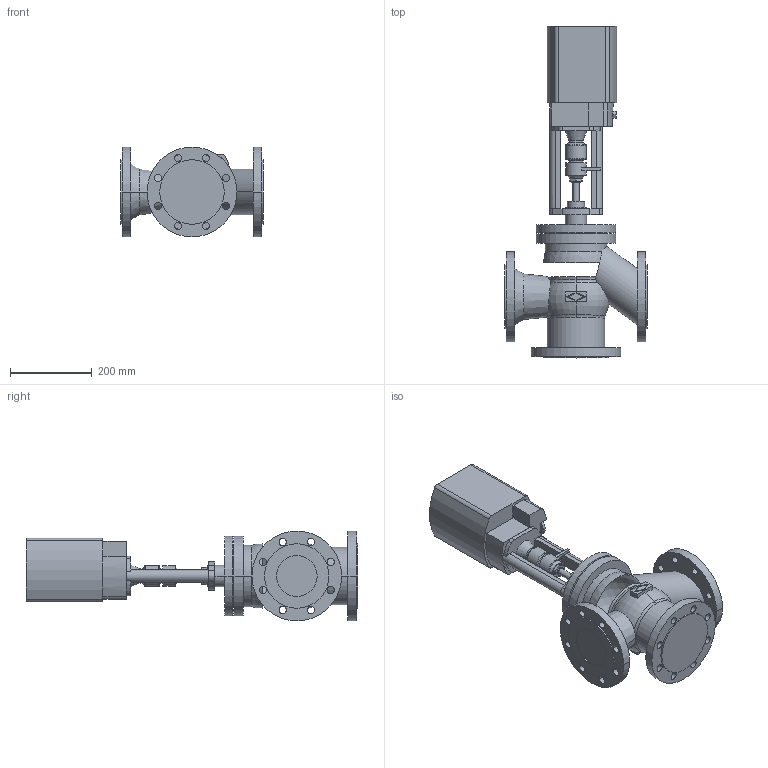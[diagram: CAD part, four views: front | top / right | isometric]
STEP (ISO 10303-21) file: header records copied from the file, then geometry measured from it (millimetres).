
FILE_DESCRIPTION( ( '' ), '1' );
FILE_NAME( 'F:/DE-SHS/TB/OR/04-Sonstiges/daten/files_3d/450-PREMIO-Plus-2G/c000006514.stp', '2017-02-22T12:49:05', ( '' ), ( '' ), ' ', ' ', ' ' );
FILE_SCHEMA( ( 'CONFIG_CONTROL_DESIGN' ) );
Length unit declared in the file: millimetre
Products named in the file (2): 1; 2
Bounding box: 350 x 814 x 220 mm (x, y, z)
Volume: 14334389.1 mm3; surface area: 862829.4 mm2
Topology: 2 solids, 2 shells, 271 faces, 713 edges, 468 vertices
Faces by surface type: cylinder 132, plane 104, torus 21, cone 12, sphere 2
Entity records: 9120 total; most frequent: CARTESIAN_POINT 1946, DIRECTION 1592, ORIENTED_EDGE 1418, EDGE_CURVE 709, AXIS2_PLACEMENT_3D 638, VERTEX_POINT 468, CIRCLE 363, EDGE_LOOP 345
